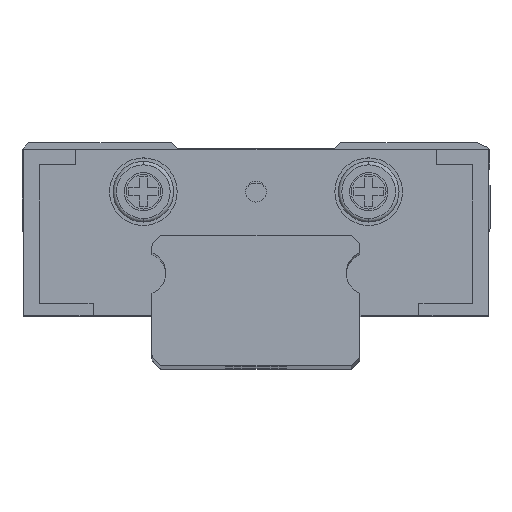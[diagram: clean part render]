
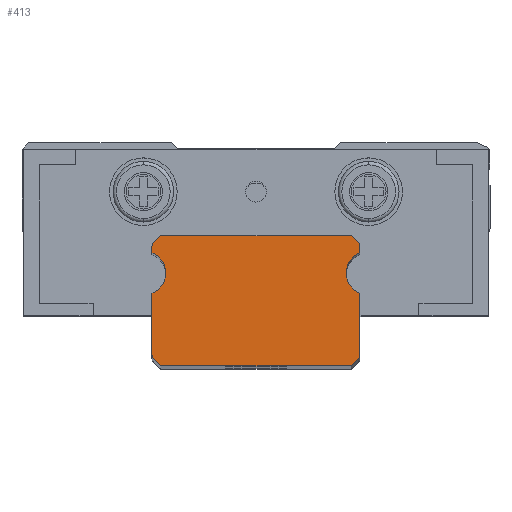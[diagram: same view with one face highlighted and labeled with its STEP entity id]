
A CAD part, top view. The second image highlights one B-rep face of the part: STEP entity #413.
In plain terms, the highlighted planar face has unit normal (0, 0, 1).
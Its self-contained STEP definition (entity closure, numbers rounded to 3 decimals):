
#30 = CARTESIAN_POINT ( 'NONE',  ( 6., 6.876, 125. ) ) ;
#82 = ORIENTED_EDGE ( 'NONE', *, *, #2790, .T. ) ;
#413 = ADVANCED_FACE ( 'NONE', ( #1631 ), #11456, .T. ) ;
#417 = ORIENTED_EDGE ( 'NONE', *, *, #9729, .T. ) ;
#582 = VERTEX_POINT ( 'NONE', #5825 ) ;
#600 = CARTESIAN_POINT ( 'NONE',  ( 5.2, 5.35, 125. ) ) ;
#674 = DIRECTION ( 'NONE',  ( 0., 0., 1. ) ) ;
#760 = DIRECTION ( 'NONE',  ( 1., 0., 0. ) ) ;
#768 = LINE ( 'NONE', #9071, #5942 ) ;
#932 = EDGE_LOOP ( 'NONE', ( #7655, #2722, #5793, #1171, #82, #6971, #3649, #10825, #7956, #5354, #417, #8238, #6964, #10910, #5047, #6848, #9725 ) ) ;
#1171 = ORIENTED_EDGE ( 'NONE', *, *, #1641, .T. ) ;
#1266 = LINE ( 'NONE', #8304, #6146 ) ;
#1470 = DIRECTION ( 'NONE',  ( 1., 0., 0. ) ) ;
#1482 = EDGE_CURVE ( 'NONE', #2971, #12632, #3997, .T. ) ;
#1534 = DIRECTION ( 'NONE',  ( 1., 0., 0. ) ) ;
#1631 = FACE_OUTER_BOUND ( 'NONE', #932, .T. ) ;
#1641 = EDGE_CURVE ( 'NONE', #4073, #8673, #11179, .T. ) ;
#1731 = EDGE_CURVE ( 'NONE', #6335, #7719, #11784, .T. ) ;
#1874 = DIRECTION ( 'NONE',  ( 0., -1., 0. ) ) ;
#1917 = CARTESIAN_POINT ( 'NONE',  ( -6., 6.876, 125. ) ) ;
#1939 = CARTESIAN_POINT ( 'NONE',  ( -5.912, 7.088, 125. ) ) ;
#2047 = CARTESIAN_POINT ( 'NONE',  ( -5.5, 0., 125. ) ) ;
#2058 = VERTEX_POINT ( 'NONE', #6817 ) ;
#2412 = CIRCLE ( 'NONE', #11130, 1.25 ) ;
#2423 = LINE ( 'NONE', #6888, #3158 ) ;
#2470 = EDGE_CURVE ( 'NONE', #5458, #6040, #11310, .T. ) ;
#2471 = CARTESIAN_POINT ( 'NONE',  ( -5.5, 0., 125. ) ) ;
#2541 = DIRECTION ( 'NONE',  ( 1., 0., 0. ) ) ;
#2604 = VERTEX_POINT ( 'NONE', #9658 ) ;
#2722 = ORIENTED_EDGE ( 'NONE', *, *, #10273, .T. ) ;
#2790 = EDGE_CURVE ( 'NONE', #8673, #2604, #4889, .T. ) ;
#2836 = DIRECTION ( 'NONE',  ( 0., -1., 0. ) ) ;
#2872 = DIRECTION ( 'NONE',  ( 0., 1., 0. ) ) ;
#2971 = VERTEX_POINT ( 'NONE', #3221 ) ;
#3149 = DIRECTION ( 'NONE',  ( 1., 0., 0. ) ) ;
#3158 = VECTOR ( 'NONE', #11627, 1000. ) ;
#3221 = CARTESIAN_POINT ( 'NONE',  ( -6., 4.184, 125. ) ) ;
#3605 = VERTEX_POINT ( 'NONE', #7867 ) ;
#3629 = EDGE_CURVE ( 'NONE', #12493, #7719, #11279, .T. ) ;
#3649 = ORIENTED_EDGE ( 'NONE', *, *, #1482, .T. ) ;
#3742 = AXIS2_PLACEMENT_3D ( 'NONE', #8815, #6845, #6725 ) ;
#3922 = EDGE_CURVE ( 'NONE', #9586, #3605, #5464, .T. ) ;
#3997 = LINE ( 'NONE', #5841, #5547 ) ;
#4004 = CARTESIAN_POINT ( 'NONE',  ( -5.912, 0.412, 125. ) ) ;
#4021 = EDGE_CURVE ( 'NONE', #9833, #9586, #2423, .T. ) ;
#4073 = VERTEX_POINT ( 'NONE', #1939 ) ;
#4089 = AXIS2_PLACEMENT_3D ( 'NONE', #10464, #6567, #4540 ) ;
#4328 = DIRECTION ( 'NONE',  ( 0., 0., 1. ) ) ;
#4540 = DIRECTION ( 'NONE',  ( 1., 0., 0. ) ) ;
#4567 = DIRECTION ( 'NONE',  ( 0., 0., 1. ) ) ;
#4582 = DIRECTION ( 'NONE',  ( 0.707, -0.707, 0. ) ) ;
#4833 = VECTOR ( 'NONE', #10581, 1000. ) ;
#4889 = LINE ( 'NONE', #1917, #8252 ) ;
#5047 = ORIENTED_EDGE ( 'NONE', *, *, #9974, .F. ) ;
#5231 = EDGE_CURVE ( 'NONE', #2971, #2604, #2412, .T. ) ;
#5354 = ORIENTED_EDGE ( 'NONE', *, *, #2470, .T. ) ;
#5458 = VERTEX_POINT ( 'NONE', #2047 ) ;
#5464 = CIRCLE ( 'NONE', #8607, 0.3 ) ;
#5512 = VECTOR ( 'NONE', #1534, 1000. ) ;
#5547 = VECTOR ( 'NONE', #2836, 1000. ) ;
#5563 = CARTESIAN_POINT ( 'NONE',  ( 6., 4.184, 125. ) ) ;
#5582 = AXIS2_PLACEMENT_3D ( 'NONE', #9064, #8938, #3149 ) ;
#5793 = ORIENTED_EDGE ( 'NONE', *, *, #9013, .T. ) ;
#5799 = CIRCLE ( 'NONE', #5582, 0.3 ) ;
#5825 = CARTESIAN_POINT ( 'NONE',  ( 5.912, 0.412, 125. ) ) ;
#5841 = CARTESIAN_POINT ( 'NONE',  ( -6., 4.184, 125. ) ) ;
#5942 = VECTOR ( 'NONE', #9820, 1000. ) ;
#5983 = VECTOR ( 'NONE', #2872, 1000. ) ;
#6040 = VERTEX_POINT ( 'NONE', #7572 ) ;
#6068 = LINE ( 'NONE', #12551, #4833 ) ;
#6146 = VECTOR ( 'NONE', #4582, 1000. ) ;
#6231 = AXIS2_PLACEMENT_3D ( 'NONE', #8306, #6517, #2541 ) ;
#6335 = VERTEX_POINT ( 'NONE', #12240 ) ;
#6517 = DIRECTION ( 'NONE',  ( 0., 0., 1. ) ) ;
#6567 = DIRECTION ( 'NONE',  ( 0., 0., 1. ) ) ;
#6725 = DIRECTION ( 'NONE',  ( 1., 0., 0. ) ) ;
#6817 = CARTESIAN_POINT ( 'NONE',  ( 5.5, 7.5, 125. ) ) ;
#6845 = DIRECTION ( 'NONE',  ( 0., 0., 1. ) ) ;
#6848 = ORIENTED_EDGE ( 'NONE', *, *, #4021, .T. ) ;
#6887 = VECTOR ( 'NONE', #11031, 1000. ) ;
#6888 = CARTESIAN_POINT ( 'NONE',  ( 6., 6.516, 125. ) ) ;
#6889 = CARTESIAN_POINT ( 'NONE',  ( 6., 0.624, 125. ) ) ;
#6964 = ORIENTED_EDGE ( 'NONE', *, *, #1731, .T. ) ;
#6971 = ORIENTED_EDGE ( 'NONE', *, *, #5231, .F. ) ;
#7067 = CARTESIAN_POINT ( 'NONE',  ( -5.5, 7.5, 125. ) ) ;
#7102 = EDGE_CURVE ( 'NONE', #3605, #2058, #6068, .T. ) ;
#7523 = CARTESIAN_POINT ( 'NONE',  ( 5.7, 6.876, 125. ) ) ;
#7572 = CARTESIAN_POINT ( 'NONE',  ( 5.5, 0., 125. ) ) ;
#7580 = AXIS2_PLACEMENT_3D ( 'NONE', #12419, #12370, #760 ) ;
#7623 = EDGE_CURVE ( 'NONE', #8066, #5458, #1266, .T. ) ;
#7646 = DIRECTION ( 'NONE',  ( 1., 0., 0. ) ) ;
#7655 = ORIENTED_EDGE ( 'NONE', *, *, #7102, .T. ) ;
#7719 = VERTEX_POINT ( 'NONE', #5563 ) ;
#7757 = CARTESIAN_POINT ( 'NONE',  ( -6., 6.876, 125. ) ) ;
#7758 = CIRCLE ( 'NONE', #4089, 1.25 ) ;
#7867 = CARTESIAN_POINT ( 'NONE',  ( 5.912, 7.088, 125. ) ) ;
#7944 = LINE ( 'NONE', #9048, #6887 ) ;
#7956 = ORIENTED_EDGE ( 'NONE', *, *, #7623, .T. ) ;
#8066 = VERTEX_POINT ( 'NONE', #4004 ) ;
#8238 = ORIENTED_EDGE ( 'NONE', *, *, #11026, .T. ) ;
#8252 = VECTOR ( 'NONE', #1874, 1000. ) ;
#8304 = CARTESIAN_POINT ( 'NONE',  ( -5.912, 0.412, 125. ) ) ;
#8306 = CARTESIAN_POINT ( 'NONE',  ( 5.7, 0.624, 125. ) ) ;
#8607 = AXIS2_PLACEMENT_3D ( 'NONE', #7523, #674, #8609 ) ;
#8609 = DIRECTION ( 'NONE',  ( 1., 0., 0. ) ) ;
#8626 = CARTESIAN_POINT ( 'NONE',  ( -6.45, 5.35, 125. ) ) ;
#8673 = VERTEX_POINT ( 'NONE', #7757 ) ;
#8815 = CARTESIAN_POINT ( 'NONE',  ( -5.7, 6.876, 125. ) ) ;
#8839 = VECTOR ( 'NONE', #11202, 1000. ) ;
#8938 = DIRECTION ( 'NONE',  ( 0., 0., 1. ) ) ;
#9013 = EDGE_CURVE ( 'NONE', #12356, #4073, #7944, .T. ) ;
#9024 = CIRCLE ( 'NONE', #6231, 0.3 ) ;
#9048 = CARTESIAN_POINT ( 'NONE',  ( -5.5, 7.5, 125. ) ) ;
#9064 = CARTESIAN_POINT ( 'NONE',  ( -5.7, 0.624, 125. ) ) ;
#9071 = CARTESIAN_POINT ( 'NONE',  ( 5.5, 0., 125. ) ) ;
#9134 = LINE ( 'NONE', #11297, #8839 ) ;
#9586 = VERTEX_POINT ( 'NONE', #30 ) ;
#9658 = CARTESIAN_POINT ( 'NONE',  ( -6., 6.516, 125. ) ) ;
#9725 = ORIENTED_EDGE ( 'NONE', *, *, #3922, .T. ) ;
#9729 = EDGE_CURVE ( 'NONE', #6040, #582, #768, .T. ) ;
#9820 = DIRECTION ( 'NONE',  ( 0.707, 0.707, 0. ) ) ;
#9833 = VERTEX_POINT ( 'NONE', #11796 ) ;
#9974 = EDGE_CURVE ( 'NONE', #9833, #12493, #7758, .T. ) ;
#10167 = CARTESIAN_POINT ( 'NONE',  ( 6.45, 5.35, 125. ) ) ;
#10273 = EDGE_CURVE ( 'NONE', #2058, #12356, #9134, .T. ) ;
#10464 = CARTESIAN_POINT ( 'NONE',  ( 6.45, 5.35, 125. ) ) ;
#10581 = DIRECTION ( 'NONE',  ( -0.707, 0.707, 0. ) ) ;
#10825 = ORIENTED_EDGE ( 'NONE', *, *, #11463, .T. ) ;
#10910 = ORIENTED_EDGE ( 'NONE', *, *, #3629, .F. ) ;
#11026 = EDGE_CURVE ( 'NONE', #582, #6335, #9024, .T. ) ;
#11031 = DIRECTION ( 'NONE',  ( -0.707, -0.707, 0. ) ) ;
#11130 = AXIS2_PLACEMENT_3D ( 'NONE', #8626, #4567, #7646 ) ;
#11179 = CIRCLE ( 'NONE', #3742, 0.3 ) ;
#11202 = DIRECTION ( 'NONE',  ( -1., 0., 0. ) ) ;
#11279 = CIRCLE ( 'NONE', #11940, 1.25 ) ;
#11297 = CARTESIAN_POINT ( 'NONE',  ( 5.5, 7.5, 125. ) ) ;
#11310 = LINE ( 'NONE', #2471, #5512 ) ;
#11344 = CARTESIAN_POINT ( 'NONE',  ( -6., 0.624, 125. ) ) ;
#11456 = PLANE ( 'NONE',  #7580 ) ;
#11463 = EDGE_CURVE ( 'NONE', #12632, #8066, #5799, .T. ) ;
#11627 = DIRECTION ( 'NONE',  ( 0., 1., 0. ) ) ;
#11784 = LINE ( 'NONE', #6889, #5983 ) ;
#11796 = CARTESIAN_POINT ( 'NONE',  ( 6., 6.516, 125. ) ) ;
#11940 = AXIS2_PLACEMENT_3D ( 'NONE', #10167, #4328, #1470 ) ;
#12240 = CARTESIAN_POINT ( 'NONE',  ( 6., 0.624, 125. ) ) ;
#12356 = VERTEX_POINT ( 'NONE', #7067 ) ;
#12370 = DIRECTION ( 'NONE',  ( 0., 0., 1. ) ) ;
#12419 = CARTESIAN_POINT ( 'NONE',  ( -5.7, 6.876, 125. ) ) ;
#12493 = VERTEX_POINT ( 'NONE', #600 ) ;
#12551 = CARTESIAN_POINT ( 'NONE',  ( 5.912, 7.088, 125. ) ) ;
#12632 = VERTEX_POINT ( 'NONE', #11344 ) ;
